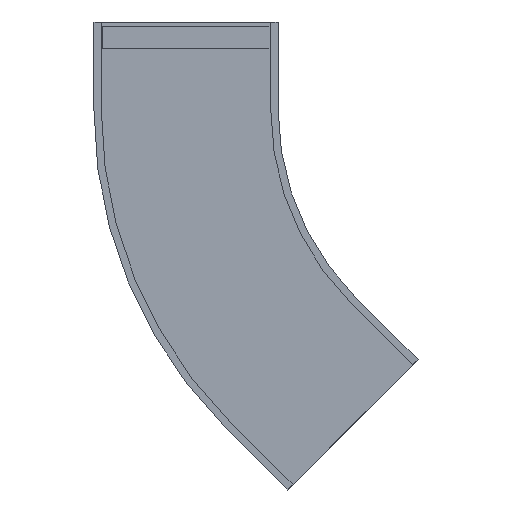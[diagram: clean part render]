
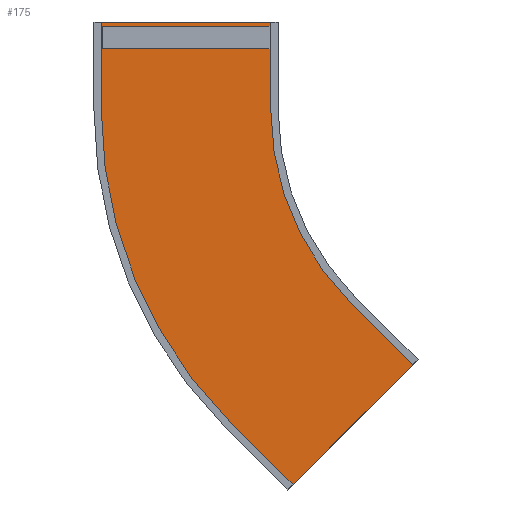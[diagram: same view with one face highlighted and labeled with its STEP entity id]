
A CAD part, front view. The second image highlights one B-rep face of the part: STEP entity #175.
In plain terms, the highlighted planar face has unit normal (0, -1, 0).
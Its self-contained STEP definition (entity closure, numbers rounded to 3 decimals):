
#175 = ADVANCED_FACE ( 'NONE', ( #3971 ), #1875, .T. ) ;
#680 = VECTOR ( 'NONE', #2473, 1000. ) ;
#681 = LINE ( 'NONE', #2474, #680 ) ;
#682 = VECTOR ( 'NONE', #2475, 1000. ) ;
#683 = LINE ( 'NONE', #2477, #682 ) ;
#684 = VECTOR ( 'NONE', #2478, 1000. ) ;
#685 = LINE ( 'NONE', #2479, #684 ) ;
#686 = VECTOR ( 'NONE', #2481, 1000. ) ;
#687 = LINE ( 'NONE', #2482, #686 ) ;
#917 = CIRCLE ( 'NONE', #6141, 1016.5 ) ;
#923 = CIRCLE ( 'NONE', #6144, 603.5 ) ;
#1100 = VERTEX_POINT ( 'NONE', #5970 ) ;
#1538 = VERTEX_POINT ( 'NONE', #5943 ) ;
#1579 = VERTEX_POINT ( 'NONE', #5902 ) ;
#1616 = VERTEX_POINT ( 'NONE', #5865 ) ;
#1707 = VERTEX_POINT ( 'NONE', #5058 ) ;
#1711 = VERTEX_POINT ( 'NONE', #5037 ) ;
#1722 = VERTEX_POINT ( 'NONE', #4997 ) ;
#1766 = VERTEX_POINT ( 'NONE', #5119 ) ;
#1872 = DIRECTION ( 'NONE',  ( 1., 0., 0. ) ) ;
#1873 = DIRECTION ( 'NONE',  ( 0., -1., 0. ) ) ;
#1874 = CARTESIAN_POINT ( 'NONE',  ( 206.5, -57.525, -200. ) ) ;
#1875 = PLANE ( 'NONE',  #6176 ) ;
#2473 = DIRECTION ( 'NONE',  ( 0.707, 0., 0.707 ) ) ;
#2474 = CARTESIAN_POINT ( 'NONE',  ( 524.682, -57.525, -768.16 ) ) ;
#2475 = DIRECTION ( 'NONE',  ( 0., 0., 1. ) ) ;
#2477 = CARTESIAN_POINT ( 'NONE',  ( -206.5, -57.525, -200. ) ) ;
#2478 = DIRECTION ( 'NONE',  ( 1., 0., 0. ) ) ;
#2479 = CARTESIAN_POINT ( 'NONE',  ( 206.5, -57.525, 0. ) ) ;
#2481 = DIRECTION ( 'NONE',  ( 0., 0., 1. ) ) ;
#2482 = CARTESIAN_POINT ( 'NONE',  ( 206.5, -57.525, -200. ) ) ;
#3541 = EDGE_LOOP ( 'NONE', ( #4251, #4256, #4257, #4262, #4263, #4268, #4269, #4274 ) ) ;
#3784 = VECTOR ( 'NONE', #4606, 1000. ) ;
#3785 = LINE ( 'NONE', #4610, #3784 ) ;
#3796 = VECTOR ( 'NONE', #4662, 1000. ) ;
#3797 = LINE ( 'NONE', #4664, #3796 ) ;
#3971 = FACE_OUTER_BOUND ( 'NONE', #3541, .T. ) ;
#4251 = ORIENTED_EDGE ( 'NONE', *, *, #5644, .F. ) ;
#4256 = ORIENTED_EDGE ( 'NONE', *, *, #5645, .F. ) ;
#4257 = ORIENTED_EDGE ( 'NONE', *, *, #5497, .T. ) ;
#4262 = ORIENTED_EDGE ( 'NONE', *, *, #5341, .T. ) ;
#4263 = ORIENTED_EDGE ( 'NONE', *, *, #5646, .T. ) ;
#4268 = ORIENTED_EDGE ( 'NONE', *, *, #5335, .F. ) ;
#4269 = ORIENTED_EDGE ( 'NONE', *, *, #5493, .F. ) ;
#4274 = ORIENTED_EDGE ( 'NONE', *, *, #5643, .T. ) ;
#4482 = DIRECTION ( 'NONE',  ( 0., 0., -1. ) ) ;
#4483 = DIRECTION ( 'NONE',  ( 0., -1., 0. ) ) ;
#4484 = CARTESIAN_POINT ( 'NONE',  ( 810., -57.525, -200. ) ) ;
#4497 = DIRECTION ( 'NONE',  ( 0., 0., -1. ) ) ;
#4498 = DIRECTION ( 'NONE',  ( 0., -1., 0. ) ) ;
#4499 = CARTESIAN_POINT ( 'NONE',  ( 810., -57.525, -200. ) ) ;
#4606 = DIRECTION ( 'NONE',  ( 0.707, 0., -0.707 ) ) ;
#4610 = CARTESIAN_POINT ( 'NONE',  ( 91.226, -57.525, -918.774 ) ) ;
#4662 = DIRECTION ( 'NONE',  ( 0.707, 0., -0.707 ) ) ;
#4664 = CARTESIAN_POINT ( 'NONE',  ( 383.261, -57.525, -626.739 ) ) ;
#4997 = CARTESIAN_POINT ( 'NONE',  ( 91.226, -57.525, -918.774 ) ) ;
#5037 = CARTESIAN_POINT ( 'NONE',  ( 206.5, -57.525, -200. ) ) ;
#5058 = CARTESIAN_POINT ( 'NONE',  ( 206.5, -57.525, 0. ) ) ;
#5119 = CARTESIAN_POINT ( 'NONE',  ( 232.647, -57.525, -1060.195 ) ) ;
#5335 = EDGE_CURVE ( 'NONE', #1579, #1616, #3797, .T. ) ;
#5341 = EDGE_CURVE ( 'NONE', #1722, #1766, #3785, .T. ) ;
#5493 = EDGE_CURVE ( 'NONE', #1711, #1579, #923, .T. ) ;
#5497 = EDGE_CURVE ( 'NONE', #1538, #1722, #917, .T. ) ;
#5643 = EDGE_CURVE ( 'NONE', #1711, #1707, #687, .T. ) ;
#5644 = EDGE_CURVE ( 'NONE', #1100, #1707, #685, .T. ) ;
#5645 = EDGE_CURVE ( 'NONE', #1538, #1100, #683, .T. ) ;
#5646 = EDGE_CURVE ( 'NONE', #1766, #1616, #681, .T. ) ;
#5865 = CARTESIAN_POINT ( 'NONE',  ( 524.682, -57.525, -768.16 ) ) ;
#5902 = CARTESIAN_POINT ( 'NONE',  ( 383.261, -57.525, -626.739 ) ) ;
#5943 = CARTESIAN_POINT ( 'NONE',  ( -206.5, -57.525, -200. ) ) ;
#5970 = CARTESIAN_POINT ( 'NONE',  ( -206.5, -57.525, 0. ) ) ;
#6141 = AXIS2_PLACEMENT_3D ( 'NONE', #4484, #4483, #4482 ) ;
#6144 = AXIS2_PLACEMENT_3D ( 'NONE', #4499, #4498, #4497 ) ;
#6176 = AXIS2_PLACEMENT_3D ( 'NONE', #1874, #1873, #1872 ) ;
